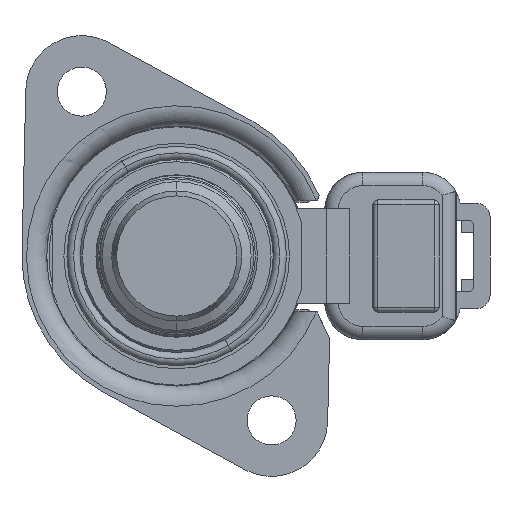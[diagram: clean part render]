
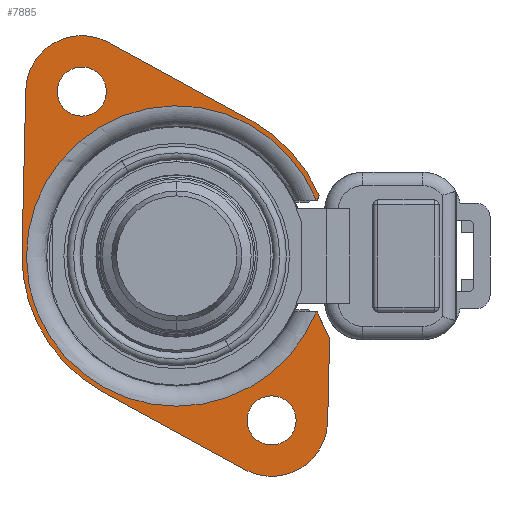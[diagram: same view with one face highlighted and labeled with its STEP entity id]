
A CAD part, front view. The second image highlights one B-rep face of the part: STEP entity #7885.
In plain terms, the highlighted planar face has unit normal (0, -1, 0).
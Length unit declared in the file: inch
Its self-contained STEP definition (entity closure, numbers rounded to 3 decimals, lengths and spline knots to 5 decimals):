
#390=CARTESIAN_POINT('',(0.6218,0.,0.24952));
#765=DIRECTION('',(0.423,0.,-0.906));
#766=VECTOR('',#765,0.13123);
#767=CARTESIAN_POINT('',(0.62622,0.,-0.24952));
#768=LINE('',#767,#766);
#769=DIRECTION('',(-0.023,0.,-1.));
#770=VECTOR('',#769,0.37042);
#771=CARTESIAN_POINT('',(0.68168,0.,-0.36845));
#772=LINE('',#771,#770);
#773=CARTESIAN_POINT('',(0.4232,0.,-0.733));
#774=DIRECTION('',(0.,1.,0.));
#775=DIRECTION('',(1.,0.,-0.023));
#776=AXIS2_PLACEMENT_3D('',#773,#774,#775);
#778=CARTESIAN_POINT('',(0.4232,0.,-0.733));
#779=DIRECTION('',(0.,1.,0.));
#780=DIRECTION('',(0.5,0.,-0.866));
#781=AXIS2_PLACEMENT_3D('',#778,#779,#780);
#783=DIRECTION('',(-0.877,0.,0.48));
#784=VECTOR('',#783,0.72304);
#785=CARTESIAN_POINT('',(0.30323,0.,-0.95234));
#786=LINE('',#785,#784);
#787=CARTESIAN_POINT('',(0.,0.,0.));
#788=DIRECTION('',(0.,1.,0.));
#789=DIRECTION('',(-0.48,0.,-0.877));
#790=AXIS2_PLACEMENT_3D('',#787,#788,#789);
#792=DIRECTION('',(0.023,0.,1.));
#793=VECTOR('',#792,0.72304);
#794=CARTESIAN_POINT('',(-0.68982,0.,0.01592));
#795=LINE('',#794,#793);
#796=CARTESIAN_POINT('',(-0.4232,0.,0.733));
#797=DIRECTION('',(0.,1.,0.));
#798=DIRECTION('',(-1.,0.,0.023));
#799=AXIS2_PLACEMENT_3D('',#796,#797,#798);
#801=CARTESIAN_POINT('',(-0.4232,0.,0.733));
#802=DIRECTION('',(0.,1.,0.));
#803=DIRECTION('',(-0.5,0.,0.866));
#804=AXIS2_PLACEMENT_3D('',#801,#802,#803);
#806=DIRECTION('',(0.877,0.,-0.48));
#807=VECTOR('',#806,0.72304);
#808=CARTESIAN_POINT('',(-0.30323,0.,0.95234));
#809=LINE('',#808,#807);
#810=CARTESIAN_POINT('',(0.,0.,0.));
#811=DIRECTION('',(0.,1.,0.));
#812=DIRECTION('',(0.48,0.,0.877));
#813=AXIS2_PLACEMENT_3D('',#810,#811,#812);
#815=DIRECTION('',(-0.423,0.,-0.906));
#816=VECTOR('',#815,0.02162);
#817=CARTESIAN_POINT('',(0.63536,0.,0.26911));
#818=LINE('',#817,#816);
#819=DIRECTION('',(-1.,0.,0.));
#820=VECTOR('',#819,0.00442);
#821=CARTESIAN_POINT('',(0.62622,0.,0.24952));
#822=LINE('',#821,#820);
#823=CARTESIAN_POINT('',(0.,0.,0.));
#824=DIRECTION('',(0.,-1.,0.));
#825=DIRECTION('',(0.928,0.,0.372));
#826=AXIS2_PLACEMENT_3D('',#823,#824,#825);
#828=CARTESIAN_POINT('',(0.,0.,0.));
#829=DIRECTION('',(0.,-1.,0.));
#830=DIRECTION('',(-0.983,0.,-0.182));
#831=AXIS2_PLACEMENT_3D('',#828,#829,#830);
#833=CARTESIAN_POINT('',(0.,0.,0.));
#834=DIRECTION('',(0.,-1.,0.));
#835=DIRECTION('',(-0.928,0.,-0.372));
#836=AXIS2_PLACEMENT_3D('',#833,#834,#835);
#838=DIRECTION('',(1.,0.,0.));
#839=VECTOR('',#838,0.00442);
#840=CARTESIAN_POINT('',(0.6218,0.,-0.24952));
#841=LINE('',#840,#839);
#842=CARTESIAN_POINT('',(0.4232,0.,-0.733));
#843=DIRECTION('',(0.,-1.,0.));
#844=DIRECTION('',(-0.5,0.,0.866));
#845=AXIS2_PLACEMENT_3D('',#842,#843,#844);
#847=CARTESIAN_POINT('',(0.4232,0.,-0.733));
#848=DIRECTION('',(0.,-1.,0.));
#849=DIRECTION('',(0.5,0.,-0.866));
#850=AXIS2_PLACEMENT_3D('',#847,#848,#849);
#852=CARTESIAN_POINT('',(-0.4232,0.,0.733));
#853=DIRECTION('',(0.,-1.,0.));
#854=DIRECTION('',(-0.5,0.,0.866));
#855=AXIS2_PLACEMENT_3D('',#852,#853,#854);
#857=CARTESIAN_POINT('',(-0.4232,0.,0.733));
#858=DIRECTION('',(0.,-1.,0.));
#859=DIRECTION('',(0.5,0.,-0.866));
#860=AXIS2_PLACEMENT_3D('',#857,#858,#859);
#5796=CARTESIAN_POINT('',(0.62622,0.,-0.24952));
#5797=VERTEX_POINT('',#5796);
#5798=CARTESIAN_POINT('',(0.6218,0.,-0.24952));
#5799=VERTEX_POINT('',#5798);
#5828=VERTEX_POINT('',#390);
#5829=CARTESIAN_POINT('',(0.62622,0.,0.24952));
#5830=VERTEX_POINT('',#5829);
#5935=CARTESIAN_POINT('',(-0.65886,0.,-0.12166));
#5936=VERTEX_POINT('',#5935);
#5937=CARTESIAN_POINT('',(-0.6218,0.,-0.24952));
#5938=VERTEX_POINT('',#5937);
#5939=CARTESIAN_POINT('',(0.68168,0.,-0.36845));
#5940=VERTEX_POINT('',#5939);
#5941=CARTESIAN_POINT('',(0.67313,0.,-0.73877));
#5942=VERTEX_POINT('',#5941);
#5943=CARTESIAN_POINT('',(0.5482,0.,-0.94951));
#5944=VERTEX_POINT('',#5943);
#5945=CARTESIAN_POINT('',(0.30323,0.,-0.95234));
#5946=VERTEX_POINT('',#5945);
#5947=CARTESIAN_POINT('',(-0.33112,0.,-0.60536));
#5948=VERTEX_POINT('',#5947);
#5949=CARTESIAN_POINT('',(-0.68982,0.,0.01592));
#5950=VERTEX_POINT('',#5949);
#5951=CARTESIAN_POINT('',(-0.67313,0.,0.73877));
#5952=VERTEX_POINT('',#5951);
#5953=CARTESIAN_POINT('',(-0.5482,0.,0.94951));
#5954=CARTESIAN_POINT('',(-0.30323,0.,0.95234));
#5955=VERTEX_POINT('',#5953);
#5956=VERTEX_POINT('',#5954);
#5957=CARTESIAN_POINT('',(0.33112,0.,0.60536));
#5958=VERTEX_POINT('',#5957);
#5959=CARTESIAN_POINT('',(0.63536,0.,0.26911));
#5960=VERTEX_POINT('',#5959);
#5961=CARTESIAN_POINT('',(0.36845,0.,-0.63817));
#5962=CARTESIAN_POINT('',(0.47795,0.,-0.82783));
#5963=VERTEX_POINT('',#5961);
#5964=VERTEX_POINT('',#5962);
#5965=CARTESIAN_POINT('',(-0.47795,0.,0.82783));
#5966=CARTESIAN_POINT('',(-0.36845,0.,0.63817));
#5967=VERTEX_POINT('',#5965);
#5968=VERTEX_POINT('',#5966);
#7837=CARTESIAN_POINT('',(0.,0.,0.));
#7838=DIRECTION('',(0.,-1.,0.));
#7839=DIRECTION('',(0.5,0.,-0.866));
#7840=AXIS2_PLACEMENT_3D('',#7837,#7838,#7839);
#7841=PLANE('',#7840);
#7843=ORIENTED_EDGE('',*,*,#7842,.T.);
#7845=ORIENTED_EDGE('',*,*,#7844,.T.);
#7847=ORIENTED_EDGE('',*,*,#7846,.T.);
#7849=ORIENTED_EDGE('',*,*,#7848,.T.);
#7851=ORIENTED_EDGE('',*,*,#7850,.T.);
#7853=ORIENTED_EDGE('',*,*,#7852,.T.);
#7855=ORIENTED_EDGE('',*,*,#7854,.T.);
#7857=ORIENTED_EDGE('',*,*,#7856,.T.);
#7859=ORIENTED_EDGE('',*,*,#7858,.T.);
#7861=ORIENTED_EDGE('',*,*,#7860,.T.);
#7863=ORIENTED_EDGE('',*,*,#7862,.T.);
#7865=ORIENTED_EDGE('',*,*,#7864,.T.);
#7866=ORIENTED_EDGE('',*,*,#7463,.T.);
#7867=ORIENTED_EDGE('',*,*,#7831,.T.);
#7868=ORIENTED_EDGE('',*,*,#7829,.T.);
#7869=ORIENTED_EDGE('',*,*,#7827,.T.);
#7870=ORIENTED_EDGE('',*,*,#7722,.T.);
#7871=EDGE_LOOP('',(#7843,#7845,#7847,#7849,#7851,#7853,#7855,#7857,#7859,#7861,
#7863,#7865,#7866,#7867,#7868,#7869,#7870));
#7872=FACE_OUTER_BOUND('',#7871,.F.);
#7874=ORIENTED_EDGE('',*,*,#7873,.T.);
#7876=ORIENTED_EDGE('',*,*,#7875,.T.);
#7877=EDGE_LOOP('',(#7874,#7876));
#7878=FACE_BOUND('',#7877,.F.);
#7880=ORIENTED_EDGE('',*,*,#7879,.T.);
#7882=ORIENTED_EDGE('',*,*,#7881,.T.);
#7883=EDGE_LOOP('',(#7880,#7882));
#7884=FACE_BOUND('',#7883,.F.);
#7885=ADVANCED_FACE('',(#7872,#7878,#7884),#7841,.T.);
#777=CIRCLE('',#776,0.25);
#782=CIRCLE('',#781,0.25);
#791=CIRCLE('',#790,0.69);
#800=CIRCLE('',#799,0.25);
#805=CIRCLE('',#804,0.25);
#814=CIRCLE('',#813,0.69);
#827=CIRCLE('',#826,0.67);
#832=CIRCLE('',#831,0.67);
#837=CIRCLE('',#836,0.67);
#846=CIRCLE('',#845,0.1095);
#851=CIRCLE('',#850,0.1095);
#856=CIRCLE('',#855,0.1095);
#861=CIRCLE('',#860,0.1095);
#7463=EDGE_CURVE('',#5830,#5828,#822,.T.);
#7722=EDGE_CURVE('',#5799,#5797,#841,.T.);
#7827=EDGE_CURVE('',#5938,#5799,#837,.T.);
#7829=EDGE_CURVE('',#5936,#5938,#832,.T.);
#7831=EDGE_CURVE('',#5828,#5936,#827,.T.);
#7842=EDGE_CURVE('',#5797,#5940,#768,.T.);
#7844=EDGE_CURVE('',#5940,#5942,#772,.T.);
#7846=EDGE_CURVE('',#5942,#5944,#777,.T.);
#7848=EDGE_CURVE('',#5944,#5946,#782,.T.);
#7850=EDGE_CURVE('',#5946,#5948,#786,.T.);
#7852=EDGE_CURVE('',#5948,#5950,#791,.T.);
#7854=EDGE_CURVE('',#5950,#5952,#795,.T.);
#7856=EDGE_CURVE('',#5952,#5955,#800,.T.);
#7858=EDGE_CURVE('',#5955,#5956,#805,.T.);
#7860=EDGE_CURVE('',#5956,#5958,#809,.T.);
#7862=EDGE_CURVE('',#5958,#5960,#814,.T.);
#7864=EDGE_CURVE('',#5960,#5830,#818,.T.);
#7873=EDGE_CURVE('',#5963,#5964,#846,.T.);
#7875=EDGE_CURVE('',#5964,#5963,#851,.T.);
#7879=EDGE_CURVE('',#5967,#5968,#856,.T.);
#7881=EDGE_CURVE('',#5968,#5967,#861,.T.);
